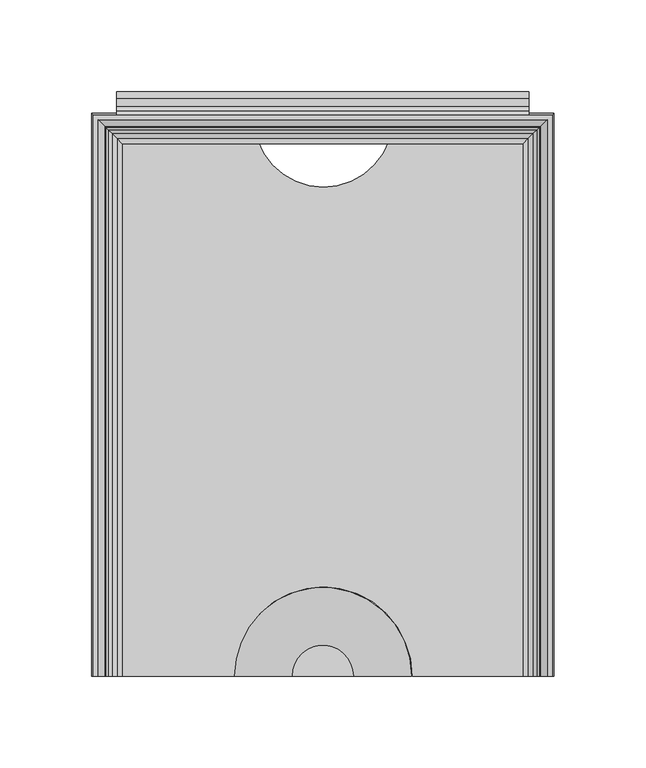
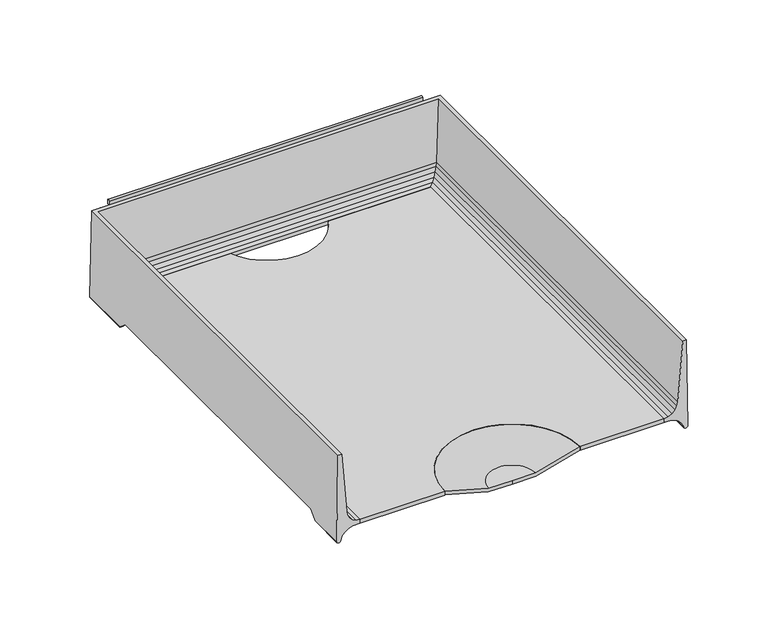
"""IFC4 building model written with IfcOpenShell, lengths in millimetres: furniture geometry."""

from ifc_helpers import new_model, si_unit, point, frame, frame_2d, origin, place, context, project, spatial, polyline, circle_curve, ellipse_curve, trimmed, segment, composite_curve, outline, extrude, source, transform, mapped, element, save
from ifc_brep_helpers import plane_surface, cylinder_surface, revolved_surface, advanced_brep


def furniture_d0e672ad(model_context):
    return source(origin(), model_context, "Body", "SolidModel", [
        advanced_brep(
        [(126.0820502, -154.0206082, 734.7007489), (125.1325529, -154.0206082, 800.1001914), (122.4547921, -154.0206082, 800.1001914), (118.8379747, -154.0206082, 755.3131003), (118.4123648, -154.0206082, 752.5796052), (117.0774354, -154.0206082, 749.8785664), (114.9656457, -154.0206082, 747.7296015), (112.28832, -154.0206082, 746.3477261), (109.3133381, -154.0206082, 745.8712052), (109.3133381, -154.0206082, 743.0490971), (114.5666739, -154.0206082, 742.8560987), (117.605351, -154.0206082, 741.7997218), (120.2416, -154.0206082, 739.9558822), (122.2762142, -154.0206082, 737.4639079), (123.1625518, -154.0206082, 734.4206655), (126.0820502, -127.6379698, 734.7007489), (126.0026181, -121.5231874, 740.171872), (126.0026181, 109.0611937, 740.171872), (126.0820502, 115.1759816, 734.7007489), (126.0820502, 153.036442, 734.7007489), (125.1325529, 152.0869447, 800.1001914), (-125.1325529, 152.0869447, 800.1001914), (-125.1325529, -154.0206082, 800.1001914), (-122.4547921, -154.0206082, 800.1001914), (-122.4547921, 149.4091839, 800.1001914), (122.4547921, 149.4091839, 800.1001914), (118.8379747, 145.7923665, 755.3131003), (118.4123648, 145.3667566, 752.5796052), (117.0774354, 144.0318272, 749.8785664), (114.9656457, 141.9200375, 747.7296015), (112.28832, 139.2427118, 746.3477261), (109.3133381, 136.2677299, 745.8712052), (109.3133381, 136.2677299, 743.0490971), (114.5666739, 141.5210656, 742.8560987), (117.605351, 144.5597428, 741.7997218), (120.2416, 147.1959918, 739.9558822), (120.2416, 109.3025941, 739.9558822), (119.9327864, 109.0611937, 740.171872), (119.9327864, -121.5231874, 740.171872), (120.2416, -121.7645876, 739.9558822), (122.2762142, -124.5497344, 737.4639079), (122.2762142, 149.230606, 737.4639079), (122.2762142, 112.0877435, 737.4639079), (123.1625518, -127.9510041, 734.4206655), (123.1625518, 150.1169436, 734.4206655), (123.1625518, 115.4890162, 734.4206655), (-126.0820502, 153.036442, 734.7007489), (-118.8379747, 145.7923665, 755.3131003), (-118.4123648, 145.3667566, 752.5796052), (-117.0774354, 144.0318272, 749.8785664), (-114.9656457, 141.9200375, 747.7296015), (-112.28832, 139.2427118, 746.3477261), (-109.3133381, 136.2677299, 745.8712052), (-109.3133381, 136.2677299, 743.0490971), (-114.5666739, 141.5210656, 742.8560987), (-117.605351, 144.5597428, 741.7997218), (-120.2416, 147.1959918, 739.9558822), (-122.2762142, 149.230606, 737.4639079), (-123.1625518, 150.1169436, 734.4206655), (-126.0820502, -154.0206082, 734.7007489), (-123.1625518, -154.0206082, 734.4206655), (-122.2762142, -154.0206082, 737.4639079), (-120.2416, -154.0206082, 739.9558822), (-117.605351, -154.0206082, 741.7997218), (-114.5666739, -154.0206082, 742.8560987), (-109.3133381, -154.0206082, 743.0490971), (-109.3133381, -154.0206082, 745.8712052), (-112.28832, -154.0206082, 746.3477261), (-114.9656457, -154.0206082, 747.7296015), (-117.0774354, -154.0206082, 749.8785664), (-118.4123648, -154.0206082, 752.5796052), (-118.8379747, -154.0206082, 755.3131003), (-126.0820502, 115.1759816, 734.7007489), (-126.0026181, 109.0611937, 740.171872), (-126.0026181, -121.5231874, 740.171872), (-126.0820502, -127.6379698, 734.7007489), (-120.2416, -121.7645876, 739.9558822), (-119.9327864, -121.5231874, 740.171872), (-119.9327864, 109.0611937, 740.171872), (-120.2416, 109.3025941, 739.9558822), (-122.2762142, 112.0877435, 737.4639079), (-122.2762142, -124.5497344, 737.4639079), (-123.1625518, 115.4890162, 734.4206655), (-123.1625518, -127.9510041, 734.4206655)],
        [
            (0, 1),
            (1, 2),
            (2, 3),
            (3, 4),
            (4, 5),
            (5, 6),
            (6, 7),
            (7, 8),
            (8, 9),
            (9, 10),
            (10, 11),
            (11, 12),
            (12, 13),
            (13, 14),
            (14, 0, circle_curve(frame((124.5859452, -154.0206082, 734.9396685), z_axis=(0.0, -1.0, 0.0), x_axis=(-1.0, 0.0, 0.0)), 1.515062)),
            (0, 15),
            (15, 16),
            (16, 17),
            (17, 18),
            (18, 19),
            (19, 20),
            (20, 1),
            (20, 21),
            (21, 22),
            (22, 23),
            (23, 24),
            (24, 25),
            (25, 2),
            (25, 26),
            (26, 3),
            (26, 27),
            (27, 4),
            (27, 28),
            (28, 5),
            (28, 29),
            (29, 6),
            (29, 30),
            (30, 7),
            (30, 31),
            (31, 8),
            (31, 32),
            (32, 9),
            (32, 33),
            (33, 10),
            (33, 34),
            (34, 11),
            (34, 35),
            (35, 36),
            (36, 37),
            (37, 38),
            (38, 39),
            (39, 12),
            (39, 40),
            (40, 13),
            (35, 41),
            (41, 42),
            (42, 36),
            (40, 43),
            (43, 14),
            (41, 44),
            (44, 45),
            (45, 42),
            (43, 15, ellipse_curve(frame((124.5859452, -127.3709422, 734.9396685), z_axis=(0.0, -0.6667949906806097, 0.7452411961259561), x_axis=(0.0, -0.7452411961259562, -0.6667949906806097)), 2.2721556, 1.515062)),
            (44, 19, ellipse_curve(frame((124.5859452, 151.540337, 734.9396685), z_axis=(0.7071067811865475, -0.7071067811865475, 0.0), x_axis=(-0.7071067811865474, -0.7071067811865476, 0.0)), 2.1426212, 1.515062)),
            (18, 45, ellipse_curve(frame((124.5859452, 114.9089538, 734.9396685), z_axis=(0.0, 0.6667946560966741, 0.7452414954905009), x_axis=(0.0, -0.7452414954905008, 0.6667946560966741)), 2.2721567, 1.515062)),
            (19, 46),
            (46, 21),
            (24, 47),
            (47, 26),
            (47, 48),
            (48, 27),
            (48, 49),
            (49, 28),
            (49, 50),
            (50, 29),
            (50, 51),
            (51, 30),
            (51, 52),
            (52, 31),
            (52, 53),
            (53, 32),
            (53, 54),
            (54, 33),
            (54, 55),
            (55, 34),
            (55, 56),
            (56, 35),
            (56, 57),
            (57, 41),
            (57, 58),
            (58, 44),
            (58, 46, ellipse_curve(frame((-124.5859452, 151.540337, 734.9396685), z_axis=(0.7071067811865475, 0.7071067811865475, 0.0), x_axis=(0.7071067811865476, -0.7071067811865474, 0.0)), 2.1426212, 1.515062)),
            (22, 59),
            (59, 60, circle_curve(frame((-124.5859452, -154.0206082, 734.9396685), z_axis=(0.0, -1.0, 0.0), x_axis=(1.0, 0.0, 0.0)), 1.515062)),
            (60, 61),
            (61, 62),
            (62, 63),
            (63, 64),
            (64, 65),
            (65, 66),
            (66, 67),
            (67, 68),
            (68, 69),
            (69, 70),
            (70, 71),
            (71, 23),
            (46, 72),
            (72, 73),
            (73, 74),
            (74, 75),
            (75, 59),
            (71, 47),
            (70, 48),
            (69, 49),
            (68, 50),
            (67, 51),
            (66, 52),
            (65, 53),
            (64, 54),
            (63, 55),
            (62, 76),
            (76, 77),
            (77, 78),
            (78, 79),
            (79, 56),
            (79, 80),
            (80, 57),
            (61, 81),
            (81, 76),
            (80, 82),
            (82, 58),
            (60, 83),
            (83, 81),
            (82, 72, ellipse_curve(frame((-124.5859452, 114.9089538, 734.9396685), z_axis=(0.0, 0.6667946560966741, 0.7452414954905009), x_axis=(0.0, 0.7452414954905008, -0.6667946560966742)), 2.2721567, 1.515062)),
            (75, 83, ellipse_curve(frame((-124.5859452, -127.3709422, 734.9396685), z_axis=(0.0, -0.6667949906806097, 0.7452411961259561), x_axis=(0.0, 0.745241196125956, 0.6667949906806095)), 2.2721556, 1.515062)),
            (38, 16),
            (74, 77),
            (37, 17),
            (73, 78),
        ],
        [
            plane_surface(frame((127.0, -154.0206082, 733.425), z_axis=(0.0, -1.0, 0.0), x_axis=(0.0, 0.0, 1.0))),
            plane_surface(frame((126.0820502, -154.0206082, 734.7007489), z_axis=(0.9998946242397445, 0.0, 0.01451690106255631), x_axis=(0.0, 1.0, 0.0))),
            plane_surface(frame((125.1325529, -154.0206082, 800.1001914), z_axis=(0.0, 0.0, 1.0), x_axis=(0.0, 1.0, 0.0))),
            plane_surface(frame((122.4547921, -154.0206082, 800.1001914), z_axis=(-0.9967551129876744, 0.0, 0.08049375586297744), x_axis=(0.0, 1.0, 0.0))),
            plane_surface(frame((118.8379747, -154.0206082, 755.3131003), z_axis=(-0.9880945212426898, 0.0, 0.15384803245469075), x_axis=(0.0, 1.0, 0.0))),
            plane_surface(frame((118.4123648, -154.0206082, 752.5796052), z_axis=(-0.8964873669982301, 0.0, 0.44306929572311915), x_axis=(0.0, 1.0, 0.0))),
            plane_surface(frame((117.0774354, -154.0206082, 749.8785664), z_axis=(-0.7132491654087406, 0.0, 0.7009105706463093), x_axis=(0.0, 1.0, 0.0))),
            plane_surface(frame((114.9656457, -154.0206082, 747.7296015), z_axis=(-0.45865074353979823, 0.0, 0.8886166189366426), x_axis=(0.0, 1.0, 0.0))),
            plane_surface(frame((112.28832, -154.0206082, 746.3477261), z_axis=(-0.15816001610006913, 0.0, 0.987413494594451), x_axis=(0.0, 1.0, 0.0))),
            plane_surface(frame((109.3133381, -154.0206082, 745.8712052), z_axis=(-1.0, 0.0, 0.0), x_axis=(0.0, 1.0, 0.0))),
            plane_surface(frame((109.3133381, -154.0206082, 743.0490971), z_axis=(-0.036713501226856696, 0.0, -0.9993258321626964), x_axis=(0.0, 1.0, 0.0))),
            plane_surface(frame((114.5666739, -154.0206082, 742.8560987), z_axis=(-0.3283669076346, 0.0, -0.9445502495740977), x_axis=(0.0, 1.0, 0.0))),
            plane_surface(frame((117.605351, -154.0206082, 741.7997218), z_axis=(-0.5731421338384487, 0.0, -0.819455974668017), x_axis=(0.0, 1.0, 0.0))),
            plane_surface(frame((120.2416, -154.0206082, 739.9558822), z_axis=(-0.77460799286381, 0.0, -0.6324416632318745), x_axis=(0.0, 1.0, 0.0))),
            plane_surface(frame((122.2762142, -154.0206082, 737.4639079), z_axis=(-0.9601080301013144, 0.0, -0.2796293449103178), x_axis=(0.0, 1.0, 0.0))),
            cylinder_surface(frame((124.5859452, -154.0206082, 734.9396685), z_axis=(0.0, -1.0, 0.0), x_axis=(-1.0, 0.0, 0.0)), 1.515062),
            plane_surface(frame((126.0820502, 153.036442, 734.7007489), z_axis=(0.0, 0.9998946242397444, 0.01451690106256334), x_axis=(-1.0, 0.0, 0.0))),
            plane_surface(frame((122.4547921, 149.4091839, 800.1001914), z_axis=(0.0, -0.9967551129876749, 0.08049375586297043), x_axis=(-1.0, 0.0, 0.0))),
            plane_surface(frame((118.8379747, 145.7923665, 755.3131003), z_axis=(0.0, -0.9880945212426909, 0.15384803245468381), x_axis=(-1.0, 0.0, 0.0))),
            plane_surface(frame((118.4123648, 145.3667566, 752.5796052), z_axis=(0.0, -0.8964873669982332, 0.4430692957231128), x_axis=(-1.0, 0.0, 0.0))),
            plane_surface(frame((117.0774354, 144.0318272, 749.8785664), z_axis=(0.0, -0.7132491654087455, 0.7009105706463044), x_axis=(-1.0, 0.0, 0.0))),
            plane_surface(frame((114.9656457, 141.9200375, 747.7296015), z_axis=(0.0, -0.4586507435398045, 0.8886166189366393), x_axis=(-1.0, 0.0, 0.0))),
            plane_surface(frame((112.28832, 139.2427118, 746.3477261), z_axis=(0.0, -0.15816001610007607, 0.9874134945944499), x_axis=(-1.0, 0.0, 0.0))),
            plane_surface(frame((109.3133381, 136.2677299, 745.8712052), z_axis=(0.0, -1.0, 0.0), x_axis=(-1.0, 0.0, 0.0))),
            plane_surface(frame((109.3133381, 136.2677299, 743.0490971), z_axis=(0.0, -0.03671350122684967, -0.9993258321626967), x_axis=(-1.0, 0.0, 0.0))),
            plane_surface(frame((114.5666739, 141.5210656, 742.8560987), z_axis=(0.0, -0.32836690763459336, -0.9445502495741), x_axis=(-1.0, 0.0, 0.0))),
            plane_surface(frame((117.605351, 144.5597428, 741.7997218), z_axis=(0.0, -0.5731421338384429, -0.819455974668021), x_axis=(-1.0, 0.0, 0.0))),
            plane_surface(frame((120.2416, 147.1959918, 739.9558822), z_axis=(0.0, -0.7746079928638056, -0.6324416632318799), x_axis=(-1.0, 0.0, 0.0))),
            plane_surface(frame((122.2762142, 149.230606, 737.4639079), z_axis=(0.0, -0.9601080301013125, -0.27962934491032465), x_axis=(-1.0, 0.0, 0.0))),
            cylinder_surface(frame((127.0, 151.540337, 734.9396685), z_axis=(1.0, 0.0, 0.0), x_axis=(0.0, -1.0, 0.0)), 1.515062),
            plane_surface(frame((-127.0, -154.0206082, 733.425), z_axis=(0.0, -1.0, 0.0), x_axis=(0.0, 0.0, 1.0))),
            plane_surface(frame((-126.0820502, 153.036442, 734.7007489), z_axis=(-0.9998946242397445, 0.0, 0.01451690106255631), x_axis=(0.0, -1.0, 0.0))),
            plane_surface(frame((-122.4547921, 149.4091839, 800.1001914), z_axis=(0.9967551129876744, 0.0, 0.08049375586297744), x_axis=(0.0, -1.0, 0.0))),
            plane_surface(frame((-118.8379747, 145.7923665, 755.3131003), z_axis=(0.9880945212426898, 0.0, 0.15384803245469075), x_axis=(0.0, -1.0, 0.0))),
            plane_surface(frame((-118.4123648, 145.3667566, 752.5796052), z_axis=(0.8964873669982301, 0.0, 0.44306929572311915), x_axis=(0.0, -1.0, 0.0))),
            plane_surface(frame((-117.0774354, 144.0318272, 749.8785664), z_axis=(0.7132491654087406, 0.0, 0.7009105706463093), x_axis=(0.0, -1.0, 0.0))),
            plane_surface(frame((-114.9656457, 141.9200375, 747.7296015), z_axis=(0.45865074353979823, 0.0, 0.8886166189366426), x_axis=(0.0, -1.0, 0.0))),
            plane_surface(frame((-112.28832, 139.2427118, 746.3477261), z_axis=(0.15816001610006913, 0.0, 0.987413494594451), x_axis=(0.0, -1.0, 0.0))),
            plane_surface(frame((-109.3133381, 136.2677299, 745.8712052), z_axis=(1.0, 0.0, 0.0), x_axis=(0.0, -1.0, 0.0))),
            plane_surface(frame((-109.3133381, 136.2677299, 743.0490971), z_axis=(0.036713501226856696, 0.0, -0.9993258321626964), x_axis=(0.0, -1.0, 0.0))),
            plane_surface(frame((-114.5666739, 141.5210656, 742.8560987), z_axis=(0.3283669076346, 0.0, -0.9445502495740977), x_axis=(0.0, -1.0, 0.0))),
            plane_surface(frame((-117.605351, 144.5597428, 741.7997218), z_axis=(0.5731421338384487, 0.0, -0.819455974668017), x_axis=(0.0, -1.0, 0.0))),
            plane_surface(frame((-120.2416, 147.1959918, 739.9558822), z_axis=(0.77460799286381, 0.0, -0.6324416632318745), x_axis=(0.0, -1.0, 0.0))),
            plane_surface(frame((-122.2762142, 149.230606, 737.4639079), z_axis=(0.9601080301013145, 0.0, -0.2796293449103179), x_axis=(0.0, -1.0, 0.0))),
            cylinder_surface(frame((-124.5859452, 153.9543918, 734.9396685), z_axis=(0.0, 1.0, 0.0), x_axis=(1.0, 0.0, 0.0)), 1.515062),
            plane_surface(frame((-127.0, -130.1695728, 732.4356296), z_axis=(0.0, 0.6667949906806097, -0.7452411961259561), x_axis=(1.0, 0.0, 0.0))),
            plane_surface(frame((-127.0, -121.5231874, 740.171872), z_axis=(0.0, 0.0, -1.0), x_axis=(1.0, 0.0, 0.0))),
            plane_surface(frame((-127.0, 109.0611937, 740.171872), z_axis=(0.0, -0.6667946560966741, -0.7452414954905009), x_axis=(1.0, 0.0, 0.0))),
        ],
        [
            (0, [[1, 2, 3, 4, 5, 6, 7, 8, 9, 10, 11, 12, 13, 14, 15]]),
            (1, [[-1, 16, 17, 18, 19, 20, 21, 22]]),
            (2, [[-2, -22, 23, 24, 25, 26, 27, 28]]),
            (3, [[-3, -28, 29, 30]]),
            (4, [[-4, -30, 31, 32]]),
            (5, [[-5, -32, 33, 34]]),
            (6, [[-6, -34, 35, 36]]),
            (7, [[-7, -36, 37, 38]]),
            (8, [[-8, -38, 39, 40]]),
            (9, [[-9, -40, 41, 42]]),
            (10, [[-10, -42, 43, 44]]),
            (11, [[-11, -44, 45, 46]]),
            (12, [[-12, -46, 47, 48, 49, 50, 51, 52]]),
            (13, [[-13, -52, 53, 54]]),
            (13, [[55, 56, 57, -48]]),
            (14, [[-14, -54, 58, 59]]),
            (14, [[60, 61, 62, -56]]),
            (15, [[-15, -59, 63, -16]]),
            (15, [[64, -20, 65, -61]]),
            (16, [[-21, 66, 67, -23]]),
            (17, [[-27, 68, 69, -29]]),
            (18, [[-31, -69, 70, 71]]),
            (19, [[-33, -71, 72, 73]]),
            (20, [[-35, -73, 74, 75]]),
            (21, [[-37, -75, 76, 77]]),
            (22, [[-39, -77, 78, 79]]),
            (23, [[-41, -79, 80, 81]]),
            (24, [[-43, -81, 82, 83]]),
            (25, [[-45, -83, 84, 85]]),
            (26, [[-47, -85, 86, 87]]),
            (27, [[-55, -87, 88, 89]]),
            (28, [[-60, -89, 90, 91]]),
            (29, [[-64, -91, 92, -66]]),
            (30, [[-25, 93, 94, 95, 96, 97, 98, 99, 100, 101, 102, 103, 104, 105, 106]]),
            (31, [[-24, -67, 107, 108, 109, 110, 111, -93]]),
            (32, [[-26, -106, 112, -68]]),
            (33, [[-70, -112, -105, 113]]),
            (34, [[-72, -113, -104, 114]]),
            (35, [[-74, -114, -103, 115]]),
            (36, [[-76, -115, -102, 116]]),
            (37, [[-78, -116, -101, 117]]),
            (38, [[-80, -117, -100, 118]]),
            (39, [[-82, -118, -99, 119]]),
            (40, [[-84, -119, -98, 120]]),
            (41, [[-86, -120, -97, 121, 122, 123, 124, 125]]),
            (42, [[-88, -125, 126, 127]]),
            (42, [[-96, 128, 129, -121]]),
            (43, [[-90, -127, 130, 131]]),
            (43, [[-95, 132, 133, -128]]),
            (44, [[-92, -131, 134, -107]]),
            (44, [[-94, -111, 135, -132]]),
            (45, [[136, -17, -63, -58, -53, -51]]),
            (45, [[137, -122, -129, -133, -135, -110]]),
            (46, [[-136, -50, 138, -18]]),
            (46, [[-137, -109, 139, -123]]),
            (47, [[-138, -49, -57, -62, -65, -19]]),
            (47, [[-139, -108, -134, -130, -126, -124]]),
        ],
    ),
        extrude(outline(composite_curve([segment(polyline([(-109.3647805, 138.2769393), (-35.6610422, 138.2769393)]), True, "CONTINUOUS"), segment(trimmed(circle_curve(frame_2d((0.3369133, 150.6584166)), 38.0677525), [point((-35.6610422, 138.2769393))], [point((36.3348688, 138.2769393))], True, "CARTESIAN"), True, "CONTINUOUS"), segment(polyline([(36.3348688, 138.2769393), (109.6504969, 138.2769393), (109.6504969, -153.9875), (48.9112184, -153.9875)]), True, "CONTINUOUS"), segment(trimmed(circle_curve(frame_2d((0.2842795, -153.9323196)), 48.6269702), [point((48.9112184, -153.9875))], [point((-48.3426595, -153.9875))], True, "CARTESIAN"), True, "CONTINUOUS"), segment(polyline([(-48.3426595, -153.9875), (-109.3647805, -153.9875), (-109.3647805, 138.2769393)]), True, "CONTINUOUS")], self_intersect=False)), frame((0.0, 0.0, 743.0314677), z_axis=(0.0, 0.0, 1.0), x_axis=(1.0, 0.0, 0.0)), (0.0, 0.0, 1.0), 2.8395461),
        extrude(outline(composite_curve([segment(trimmed(circle_curve(frame_2d((162.7186949, 784.2707343)), 1.9049988), [point((164.6236937, 784.2707343))], [point((160.8136962, 784.2707343))], False, "CARTESIAN"), True, "CONTINUOUS"), segment(polyline([(160.8136962, 784.2707343), (160.8136962, 787.6997311), (160.0516969, 788.4617303), (156.4380325, 788.4617303), (152.1427596, 786.1143331), (152.1427596, 794.6191285), (156.4380325, 792.2717312), (160.8136928, 792.2717312)]), True, "CONTINUOUS"), segment(trimmed(circle_curve(frame_2d((160.8136928, 788.4617303)), 3.8100009), [point((160.8136928, 792.2717312))], [point((164.6236937, 788.4617303))], False, "CARTESIAN"), True, "CONTINUOUS"), segment(polyline([(164.6236937, 788.4617303), (164.6236937, 784.2707343)]), True, "CONTINUOUS")], self_intersect=False)), frame((-112.5397809, 0.0, 0.0), z_axis=(1.0, 0.0, 0.0), x_axis=(0.0, 1.0, 0.0)), (0.0, 0.0, 1.0), 225.0795617),
        advanced_brep(
        [(-16.8929028, -153.9875, 736.996875), (-48.4614622, -153.9875, 745.9045432), (-48.4614622, -153.9875, 743.3130018), (-16.9249292, -153.9875, 734.4143704), (0.0, -153.9875, 734.4143704), (0.0, -153.9875, 736.996875), (16.8929028, -153.9875, 736.996875), (16.9249292, -153.9875, 734.4143704), (48.4614622, -153.9875, 743.3130018), (48.4614622, -153.9875, 745.9045432)],
        [
            (0, 1),
            (1, 2),
            (2, 3),
            (3, 4),
            (4, 5),
            (5, 0),
            (6, 5),
            (4, 7),
            (7, 8),
            (8, 9),
            (9, 6),
            (9, 1, circle_curve(frame((0.0, -153.9875, 745.9045432), z_axis=(0.0, 0.0, 1.0), x_axis=(-1.0, 0.0, 0.0)), 48.4614622)),
            (0, 6, circle_curve(frame((0.0, -153.9875, 736.996875), z_axis=(0.0, 0.0, -1.0), x_axis=(-1.0, 0.0, 0.0)), 16.8929028)),
            (8, 2, circle_curve(frame((0.0, -153.9875, 743.3130018), z_axis=(0.0, 0.0, 1.0), x_axis=(-1.0, 0.0, 0.0)), 48.4614622)),
            (7, 3, circle_curve(frame((0.0, -153.9875, 734.4143704), z_axis=(0.0, 0.0, 1.0), x_axis=(-1.0, 0.0, 0.0)), 16.9249292)),
        ],
        [
            plane_surface(frame((0.0, -153.9875, 733.425), z_axis=(0.0, -1.0, 0.0), x_axis=(-1.0, 0.0, 0.0))),
            plane_surface(frame((0.0, -153.9875, 733.425), z_axis=(0.0, -1.0, 0.0), x_axis=(1.0, 0.0, 0.0))),
            revolved_surface(polyline([(-48.4614622, -153.9875, 745.9045432), (-16.8929028, -153.9875, 736.996875)]), (0.0, -153.9875, 733.425), (0.0, 0.0, 1.0)),
            cylinder_surface(frame((0.0, -153.9875, 733.425), z_axis=(0.0, 0.0, 1.0), x_axis=(-1.0, 0.0, 0.0)), 48.4614622),
            revolved_surface(polyline([(-16.9249292, -153.9875, 734.4143704), (-48.4614622, -153.9875, 743.3130018)]), (0.0, -153.9875, 733.425), (0.0, 0.0, 1.0)),
            plane_surface(frame((0.0, -153.9875, 734.4143704), z_axis=(0.0, 0.0, -1.0), x_axis=(-1.0, 0.0, 0.0))),
            plane_surface(frame((0.0, -153.9875, 736.996875), z_axis=(0.0, 0.0, 1.0), x_axis=(-1.0, 0.0, 0.0))),
        ],
        [
            (0, [[1, 2, 3, 4, 5, 6]]),
            (1, [[7, -5, 8, 9, 10, 11]]),
            (2, [[12, -1, 13, -11]]),
            (3, [[14, -2, -12, -10]]),
            (4, [[15, -3, -14, -9]]),
            (5, [[-4, -15, -8]]),
            (6, [[-13, -6, -7]]),
        ],
    ),
        extrude(outline(composite_curve([segment(polyline([(153.9875, 800.1), (152.1427596, 800.1), (152.1427596, 802.9315333)]), True, "CONTINUOUS"), segment(trimmed(circle_curve(frame_2d((153.0651298, 802.6262665)), 0.9715733), [point((152.1427596, 802.9315333))], [point((153.9875, 802.9315333))], False, "CARTESIAN"), True, "CONTINUOUS"), segment(polyline([(153.9875, 802.9315333), (153.9875, 800.1)]), True, "CONTINUOUS")], self_intersect=False)), frame((-112.5397809, 0.0, 0.0), z_axis=(1.0, 0.0, 0.0), x_axis=(0.0, 1.0, 0.0)), (0.0, 0.0, 1.0), 225.0795617),
    ])


if __name__ == "__main__":
    model = new_model("IFC4")
    model_context = context("Model", 3, world=origin())
    ifc_project = project(units=[si_unit("LENGTHUNIT", "METRE", prefix="MILLI")], contexts=[model_context])
    site = spatial("IfcSite", under=ifc_project)
    building = spatial("IfcBuilding", under=site)
    placement = place(None, origin())
    furniture_shape = furniture_d0e672ad(model_context)
    element("IfcFurniture", 1, ObjectType="HermanMiller_ThrivePortfolio_Y7216_PaperTray : 3\"H x 12\"D x 10\"W", at=placement, inside=building, context=model_context, shape_type="MappedRepresentation", body=[
        mapped(furniture_shape, transform((0.0, 0.0, 0.0), x_axis=(1.0, 0.0, 0.0), y_axis=(0.0, 1.0, 0.0), z_axis=(0.0, 0.0, 1.0))),
    ])
    save(model, "model.ifc")
